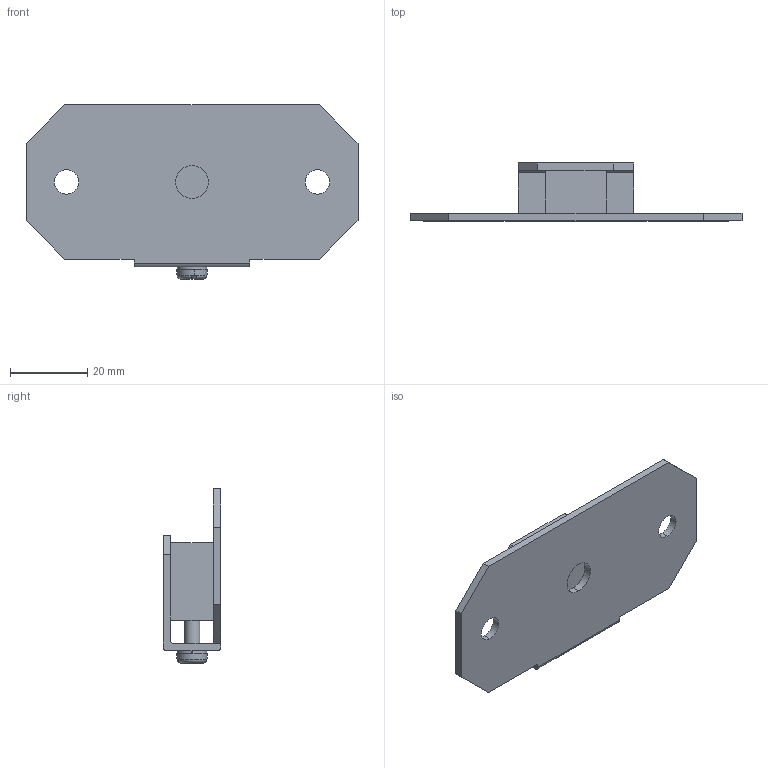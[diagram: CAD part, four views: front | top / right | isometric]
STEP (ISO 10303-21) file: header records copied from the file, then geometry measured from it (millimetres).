
FILE_DESCRIPTION (( 'STEP AP214' ), '1' );
FILE_NAME ('Vzduch_drzak_PT40.STEP', '2018-03-31T11:04:27', ( '' ), ( '' ), 'SwSTEP 2.0', 'SolidWorks 2013', '' );
FILE_SCHEMA (( 'AUTOMOTIVE_DESIGN' ));
Length unit declared in the file: millimetre
Products named in the file (7): Vzduchotechnicky drzak; slotted pan head screw_din_ISO 1580 - M4 x 16 --- 16N; Vzduch_drzak; Vzduch_drzak_PT40; vzduch_kostka; curved spring lock washer_din_Spring washer DIN 128 - A4
Assembly tree (6 placements, depth 4):
  Vzduch_drzak_PT40
    Vzduchotechnicky drzak
      Vzduch_drzak
        Vzduchotechnicky drzak
        vzduch_kostka
        slotted pan head screw_din_ISO 1580 - M4 x 16 --- 16N
        curved spring lock washer_din_Spring washer DIN 128 - A4
Bounding box: 86 x 15 x 45.2 mm (x, y, z)
Volume: 11795 mm3; surface area: 11658.5 mm2
Topology: 4 solids, 4 shells, 65 faces, 161 edges, 106 vertices
Faces by surface type: plane 38, cylinder 21, torus 4, cone 2
Entity records: 2295 total; most frequent: CARTESIAN_POINT 450, DIRECTION 355, ORIENTED_EDGE 322, EDGE_CURVE 161, AXIS2_PLACEMENT_3D 129, VERTEX_POINT 106, LINE 97, VECTOR 97
